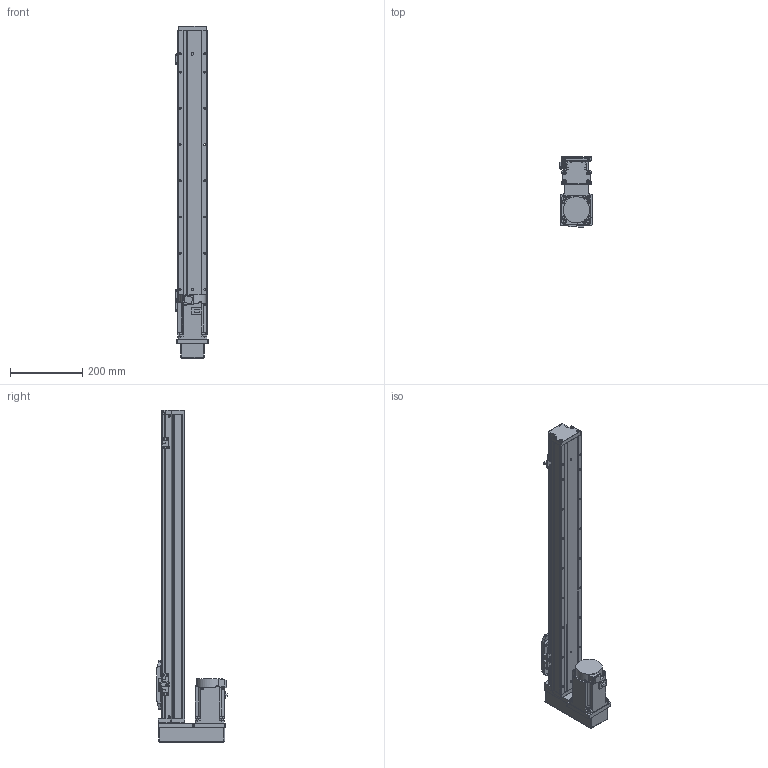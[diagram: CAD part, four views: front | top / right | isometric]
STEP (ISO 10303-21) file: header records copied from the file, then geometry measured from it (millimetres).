
FILE_DESCRIPTION (( 'STEP AP203' ), '1' );
FILE_NAME ('GTH8-650-BM-M75-C4.step', '2023-02-14T02:29:24', ( '微软用户' ), ( '微软中国' ), 'SwSTEP 2.0', 'SolidWorks 2020', '' );
FILE_SCHEMA (( 'CONFIG_CONTROL_DESIGN' ));
Length unit declared in the file: millimetre
Products named in the file (18): GTH80-003; GBT 70.1-M4×16; CTHA86-035; GTH80-004; GTH80-028; hg-kn73j_-s100; GTH80-006; GTH50-024; GTH8-650-BM-M75-C4; GTH80-013; GTH50-023; GBT 70.3-M3℅6; GBT96.1-2002 3×0.8; GTH80-022; BTH-M3X5X6; GTH80-001_650; GBT 70.1-M3℅6; CTHA86-015-3_CTHA86-015-4
Assembly tree (57 placements, depth 2):
  GTH8-650-BM-M75-C4
    GTH80-001_650
    GTH80-003
    GTH80-004
    GTH80-006
    GTH80-013
    GBT 70.3-M3℅6  x4
    GTH80-022
    GBT 70.1-M3℅6  x14
    GBT 70.1-M4×16  x8
    GTH80-028  x2
    GTH50-024  x3
    GTH50-023  x3
    GBT96.1-2002 3×0.8  x6
    BTH-M3X5X6  x8
    CTHA86-015-3_CTHA86-015-4
    CTHA86-035
    hg-kn73j_-s100
Bounding box: 89.4 x 195.3 x 916 mm (x, y, z)
Volume: 5182360 mm3; surface area: 522793.1 mm2
Topology: 59 solids, 59 shells, 2199 faces, 5106 edges, 3128 vertices
Faces by surface type: plane 1153, cylinder 631, cone 243, torus 158, sphere 12, bspline 2
Entity records: 39736 total; most frequent: CARTESIAN_POINT 6671, DIRECTION 6557, ORIENTED_EDGE 6022, EDGE_CURVE 3011, AXIS2_PLACEMENT_3D 2314, LINE 1929, VECTOR 1929, VERTEX_POINT 1903
